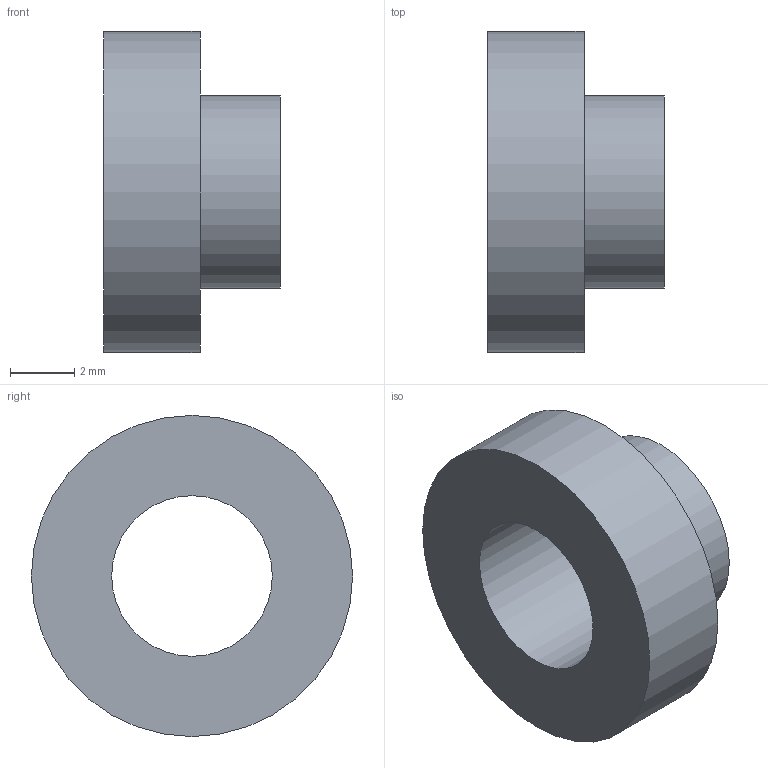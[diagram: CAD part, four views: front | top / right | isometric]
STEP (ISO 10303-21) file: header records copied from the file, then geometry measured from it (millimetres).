
FILE_DESCRIPTION(/* description */ ('STEP AP214'),/* implementation_level */ '2;1');
FILE_NAME(/* name */ 'Mounting Accessory GN 753.2-5-6-3-AE-NI',/* time_stamp */ '2024-12-09T13:59:54+01:00',/* author */ ('License CC BY-ND 4.0'),/* organization */ ('CADENAS'),/* preprocessor_version */ 'ST-DEVELOPER v19.3',/* originating_system */ 'PARTsolutions',/* authorisation */ ' ');
FILE_SCHEMA (('AUTOMOTIVE_DESIGN {1 0 10303 214 3 1 1}'));
Length unit declared in the file: millimetre
Products named in the file (1): Mounting Accessory GN 753.2-5-6-3-AE-NI
Bounding box: 5.5 x 10 x 10 mm (x, y, z)
Volume: 198.3 mm3; surface area: 345.6 mm2
Topology: 1 solids, 1 shells, 6 faces, 9 edges, 6 vertices
Faces by surface type: plane 3, cylinder 3
Full cylindrical faces by diameter (mm): 5 x1, 6 x1, 10 x1
Entity records: 158 total; most frequent: DIRECTION 26, CARTESIAN_POINT 19, AXIS2_PLACEMENT_3D 13, ORIENTED_EDGE 12, EDGE_LOOP 12, FACE_BOUND 12, EDGE_CURVE 6, VERTEX_POINT 6
